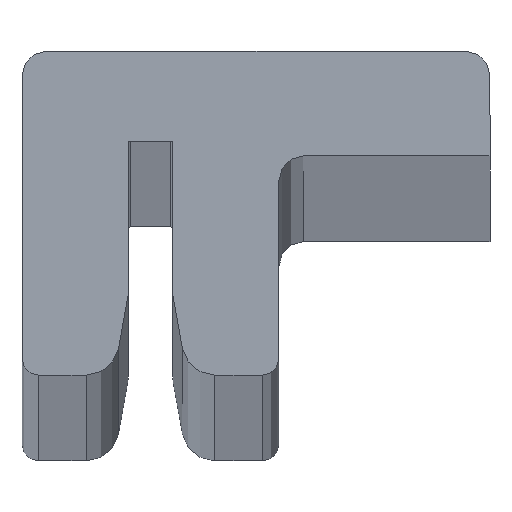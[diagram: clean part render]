
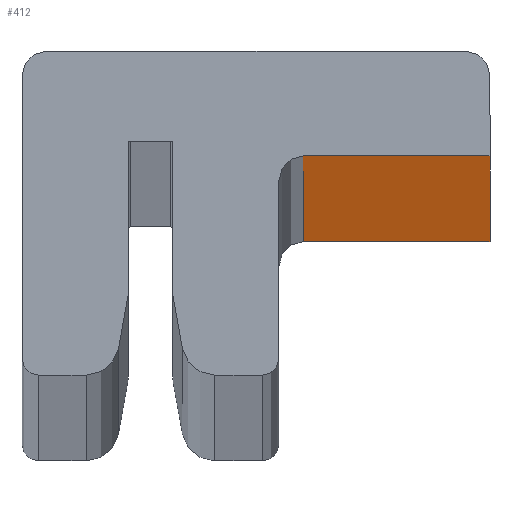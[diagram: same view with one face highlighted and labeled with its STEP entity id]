
A CAD part, top view. The second image highlights one B-rep face of the part: STEP entity #412.
In plain terms, the highlighted planar face has unit normal (0, -1, 0).
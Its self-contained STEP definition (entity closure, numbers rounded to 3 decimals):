
#1 = CARTESIAN_POINT ( 'NONE',  ( 20.75, 13.4, 0. ) ) ;
#11 = VECTOR ( 'NONE', #378, 1000. ) ;
#12 = EDGE_CURVE ( 'NONE', #845, #344, #414, .T. ) ;
#18 = ORIENTED_EDGE ( 'NONE', *, *, #507, .F. ) ;
#44 = VERTEX_POINT ( 'NONE', #165 ) ;
#79 = PLANE ( 'NONE',  #599 ) ;
#114 = VECTOR ( 'NONE', #776, 1000. ) ;
#118 = EDGE_CURVE ( 'NONE', #488, #344, #842, .T. ) ;
#131 = CARTESIAN_POINT ( 'NONE',  ( 20.75, 13.4, 0. ) ) ;
#165 = CARTESIAN_POINT ( 'NONE',  ( 9.35, 13.4, 3000. ) ) ;
#179 = CARTESIAN_POINT ( 'NONE',  ( 9.35, 13.4, 0. ) ) ;
#228 = ORIENTED_EDGE ( 'NONE', *, *, #118, .F. ) ;
#242 = CARTESIAN_POINT ( 'NONE',  ( 20.75, 13.4, 3000. ) ) ;
#267 = ORIENTED_EDGE ( 'NONE', *, *, #12, .T. ) ;
#344 = VERTEX_POINT ( 'NONE', #131 ) ;
#378 = DIRECTION ( 'NONE',  ( 1., 0., 0. ) ) ;
#398 = DIRECTION ( 'NONE',  ( 0., 1., 0. ) ) ;
#412 = ADVANCED_FACE ( 'NONE', ( #736 ), #79, .F. ) ;
#414 = LINE ( 'NONE', #1, #11 ) ;
#432 = LINE ( 'NONE', #760, #435 ) ;
#435 = VECTOR ( 'NONE', #498, 1000. ) ;
#477 = CARTESIAN_POINT ( 'NONE',  ( 20.75, 13.4, 3000. ) ) ;
#488 = VERTEX_POINT ( 'NONE', #477 ) ;
#493 = CARTESIAN_POINT ( 'NONE',  ( 20.75, 13.4, 3000. ) ) ;
#498 = DIRECTION ( 'NONE',  ( 0., 0., -1. ) ) ;
#507 = EDGE_CURVE ( 'NONE', #44, #488, #679, .T. ) ;
#572 = VECTOR ( 'NONE', #699, 1000. ) ;
#599 = AXIS2_PLACEMENT_3D ( 'NONE', #806, #398, #608 ) ;
#608 = DIRECTION ( 'NONE',  ( -1., 0., 0. ) ) ;
#634 = EDGE_CURVE ( 'NONE', #44, #845, #432, .T. ) ;
#679 = LINE ( 'NONE', #493, #572 ) ;
#699 = DIRECTION ( 'NONE',  ( 1., 0., 0. ) ) ;
#736 = FACE_OUTER_BOUND ( 'NONE', #798, .T. ) ;
#760 = CARTESIAN_POINT ( 'NONE',  ( 9.35, 13.4, 0. ) ) ;
#776 = DIRECTION ( 'NONE',  ( 0., 0., -1. ) ) ;
#798 = EDGE_LOOP ( 'NONE', ( #18, #810, #267, #228 ) ) ;
#806 = CARTESIAN_POINT ( 'NONE',  ( 20.75, 13.4, 3000. ) ) ;
#810 = ORIENTED_EDGE ( 'NONE', *, *, #634, .T. ) ;
#842 = LINE ( 'NONE', #242, #114 ) ;
#845 = VERTEX_POINT ( 'NONE', #179 ) ;
